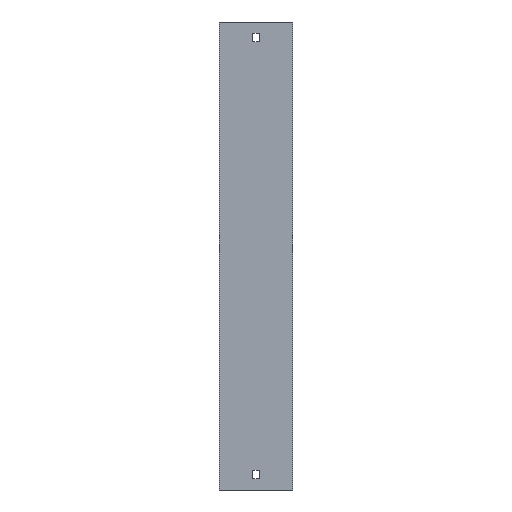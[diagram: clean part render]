
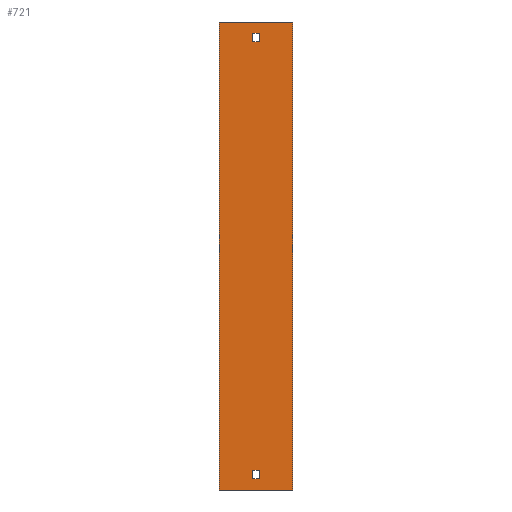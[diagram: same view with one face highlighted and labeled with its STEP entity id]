
A CAD part, front view. The second image highlights one B-rep face of the part: STEP entity #721.
In plain terms, the highlighted planar face has unit normal (0, -1, 0).
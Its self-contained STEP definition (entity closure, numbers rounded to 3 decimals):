
#38 = ORIENTED_EDGE ( 'NONE', *, *, #312, .T. ) ;
#53 = CARTESIAN_POINT ( 'NONE',  ( 39.5, 0., -250. ) ) ;
#54 = EDGE_CURVE ( 'NONE', #995, #913, #594, .T. ) ;
#57 = FACE_BOUND ( 'NONE', #211, .T. ) ;
#67 = VERTEX_POINT ( 'NONE', #532 ) ;
#70 = CARTESIAN_POINT ( 'NONE',  ( -39.5, 0., 250. ) ) ;
#76 = CARTESIAN_POINT ( 'NONE',  ( -39.5, 0., 250. ) ) ;
#79 = VECTOR ( 'NONE', #646, 1000. ) ;
#82 = CARTESIAN_POINT ( 'NONE',  ( 39.5, 0., 250. ) ) ;
#107 = LINE ( 'NONE', #349, #753 ) ;
#117 = DIRECTION ( 'NONE',  ( 1., 0., 0. ) ) ;
#132 = ORIENTED_EDGE ( 'NONE', *, *, #397, .F. ) ;
#136 = CARTESIAN_POINT ( 'NONE',  ( 3.25, 0., 229. ) ) ;
#154 = VECTOR ( 'NONE', #727, 1000. ) ;
#156 = EDGE_CURVE ( 'NONE', #586, #995, #107, .T. ) ;
#161 = ORIENTED_EDGE ( 'NONE', *, *, #374, .T. ) ;
#211 = EDGE_LOOP ( 'NONE', ( #1060, #132, #892, #341 ) ) ;
#236 = DIRECTION ( 'NONE',  ( 0., 0., 1. ) ) ;
#260 = CARTESIAN_POINT ( 'NONE',  ( -39.5, 0., 250. ) ) ;
#261 = VERTEX_POINT ( 'NONE', #53 ) ;
#270 = LINE ( 'NONE', #82, #1015 ) ;
#278 = EDGE_CURVE ( 'NONE', #1030, #580, #820, .T. ) ;
#279 = VECTOR ( 'NONE', #117, 1000. ) ;
#286 = DIRECTION ( 'NONE',  ( 0., 0., 1. ) ) ;
#293 = VECTOR ( 'NONE', #321, 1000. ) ;
#295 = LINE ( 'NONE', #554, #350 ) ;
#296 = CARTESIAN_POINT ( 'NONE',  ( -3.25, 0., -229. ) ) ;
#304 = VERTEX_POINT ( 'NONE', #734 ) ;
#308 = DIRECTION ( 'NONE',  ( 0., 0., -1. ) ) ;
#312 = EDGE_CURVE ( 'NONE', #777, #1030, #1088, .T. ) ;
#320 = DIRECTION ( 'NONE',  ( 0., 1., 0. ) ) ;
#321 = DIRECTION ( 'NONE',  ( 0., 0., -1. ) ) ;
#341 = ORIENTED_EDGE ( 'NONE', *, *, #156, .F. ) ;
#349 = CARTESIAN_POINT ( 'NONE',  ( 3.25, 0., 238. ) ) ;
#350 = VECTOR ( 'NONE', #905, 1000. ) ;
#359 = EDGE_CURVE ( 'NONE', #456, #675, #593, .T. ) ;
#374 = EDGE_CURVE ( 'NONE', #67, #777, #422, .T. ) ;
#383 = CARTESIAN_POINT ( 'NONE',  ( 3.25, 0., -238. ) ) ;
#397 = EDGE_CURVE ( 'NONE', #913, #1100, #497, .T. ) ;
#420 = CARTESIAN_POINT ( 'NONE',  ( -3.25, 0., 229. ) ) ;
#422 = LINE ( 'NONE', #776, #974 ) ;
#446 = LINE ( 'NONE', #260, #921 ) ;
#456 = VERTEX_POINT ( 'NONE', #869 ) ;
#464 = CARTESIAN_POINT ( 'NONE',  ( 3.25, 0., -229. ) ) ;
#497 = LINE ( 'NONE', #512, #1105 ) ;
#510 = CARTESIAN_POINT ( 'NONE',  ( -3.25, 0., -229. ) ) ;
#512 = CARTESIAN_POINT ( 'NONE',  ( -3.25, 0., 238. ) ) ;
#532 = CARTESIAN_POINT ( 'NONE',  ( -3.25, 0., -238. ) ) ;
#544 = CARTESIAN_POINT ( 'NONE',  ( -3.25, 0., 238. ) ) ;
#554 = CARTESIAN_POINT ( 'NONE',  ( -39.5, 0., -250. ) ) ;
#580 = VERTEX_POINT ( 'NONE', #823 ) ;
#585 = EDGE_CURVE ( 'NONE', #1100, #586, #987, .T. ) ;
#586 = VERTEX_POINT ( 'NONE', #136 ) ;
#593 = LINE ( 'NONE', #76, #293 ) ;
#594 = LINE ( 'NONE', #544, #641 ) ;
#612 = DIRECTION ( 'NONE',  ( -1., 0., 0. ) ) ;
#633 = CARTESIAN_POINT ( 'NONE',  ( 3.25, 0., 238. ) ) ;
#641 = VECTOR ( 'NONE', #612, 1000. ) ;
#646 = DIRECTION ( 'NONE',  ( 1., 0., 0. ) ) ;
#648 = EDGE_CURVE ( 'NONE', #675, #261, #295, .T. ) ;
#649 = LINE ( 'NONE', #989, #154 ) ;
#671 = CARTESIAN_POINT ( 'NONE',  ( -39.5, 0., -250. ) ) ;
#674 = ORIENTED_EDGE ( 'NONE', *, *, #788, .F. ) ;
#675 = VERTEX_POINT ( 'NONE', #671 ) ;
#678 = PLANE ( 'NONE',  #792 ) ;
#713 = ORIENTED_EDGE ( 'NONE', *, *, #359, .T. ) ;
#721 = ADVANCED_FACE ( 'NONE', ( #1017, #57, #929 ), #678, .F. ) ;
#727 = DIRECTION ( 'NONE',  ( -1., 0., 0. ) ) ;
#734 = CARTESIAN_POINT ( 'NONE',  ( 39.5, 0., 250. ) ) ;
#736 = VECTOR ( 'NONE', #308, 1000. ) ;
#753 = VECTOR ( 'NONE', #286, 1000. ) ;
#776 = CARTESIAN_POINT ( 'NONE',  ( -3.25, 0., -238. ) ) ;
#777 = VERTEX_POINT ( 'NONE', #510 ) ;
#779 = ORIENTED_EDGE ( 'NONE', *, *, #648, .T. ) ;
#784 = CARTESIAN_POINT ( 'NONE',  ( -3.25, 0., 238. ) ) ;
#788 = EDGE_CURVE ( 'NONE', #456, #304, #446, .T. ) ;
#792 = AXIS2_PLACEMENT_3D ( 'NONE', #70, #320, #1032 ) ;
#795 = DIRECTION ( 'NONE',  ( 0., 0., -1. ) ) ;
#802 = EDGE_CURVE ( 'NONE', #304, #261, #270, .T. ) ;
#820 = LINE ( 'NONE', #383, #736 ) ;
#823 = CARTESIAN_POINT ( 'NONE',  ( 3.25, 0., -238. ) ) ;
#836 = CARTESIAN_POINT ( 'NONE',  ( -3.25, 0., 229. ) ) ;
#864 = DIRECTION ( 'NONE',  ( 0., 0., -1. ) ) ;
#866 = ORIENTED_EDGE ( 'NONE', *, *, #1009, .T. ) ;
#869 = CARTESIAN_POINT ( 'NONE',  ( -39.5, 0., 250. ) ) ;
#892 = ORIENTED_EDGE ( 'NONE', *, *, #54, .F. ) ;
#897 = ORIENTED_EDGE ( 'NONE', *, *, #802, .F. ) ;
#905 = DIRECTION ( 'NONE',  ( 1., 0., 0. ) ) ;
#913 = VERTEX_POINT ( 'NONE', #784 ) ;
#921 = VECTOR ( 'NONE', #980, 1000. ) ;
#929 = FACE_BOUND ( 'NONE', #1063, .T. ) ;
#939 = ORIENTED_EDGE ( 'NONE', *, *, #278, .T. ) ;
#974 = VECTOR ( 'NONE', #236, 1000. ) ;
#980 = DIRECTION ( 'NONE',  ( 1., 0., 0. ) ) ;
#987 = LINE ( 'NONE', #836, #279 ) ;
#989 = CARTESIAN_POINT ( 'NONE',  ( -3.25, 0., -238. ) ) ;
#995 = VERTEX_POINT ( 'NONE', #633 ) ;
#1009 = EDGE_CURVE ( 'NONE', #580, #67, #649, .T. ) ;
#1015 = VECTOR ( 'NONE', #795, 1000. ) ;
#1017 = FACE_OUTER_BOUND ( 'NONE', #1028, .T. ) ;
#1028 = EDGE_LOOP ( 'NONE', ( #779, #897, #674, #713 ) ) ;
#1030 = VERTEX_POINT ( 'NONE', #464 ) ;
#1032 = DIRECTION ( 'NONE',  ( -1., 0., 0. ) ) ;
#1060 = ORIENTED_EDGE ( 'NONE', *, *, #585, .F. ) ;
#1063 = EDGE_LOOP ( 'NONE', ( #161, #38, #939, #866 ) ) ;
#1088 = LINE ( 'NONE', #296, #79 ) ;
#1100 = VERTEX_POINT ( 'NONE', #420 ) ;
#1105 = VECTOR ( 'NONE', #864, 1000. ) ;
